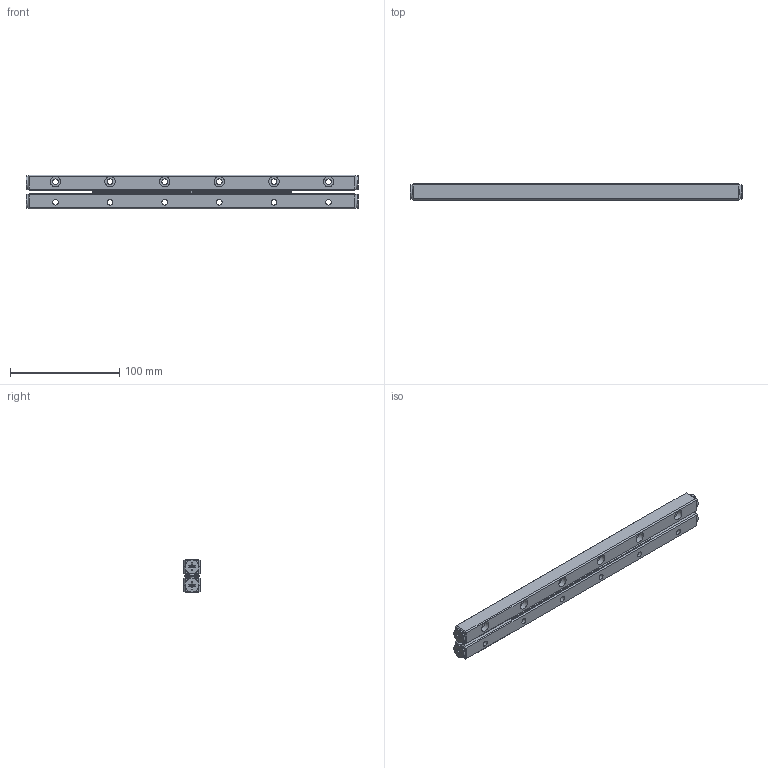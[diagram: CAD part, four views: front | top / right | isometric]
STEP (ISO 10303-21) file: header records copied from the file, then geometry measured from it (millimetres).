
FILE_DESCRIPTION (( 'STEP AP203' ), '1' );
FILE_NAME ('GRG06-0300-模糊化軌道組.STEP', '2022-11-04T08:14:03', ( '' ), ( '' ), 'SwSTEP 2.0', 'SolidWorks 2019', '' );
FILE_SCHEMA (( 'CONFIG_CONTROL_DESIGN' ));
Length unit declared in the file: millimetre
Products named in the file (1): GRG06-0300-模糊化軌道組
Bounding box: 304 x 15 x 31 mm (x, y, z)
Volume: 118246.4 mm3; surface area: 46966.2 mm2
Topology: 3 solids, 7 shells, 492 faces, 1216 edges, 784 vertices
Faces by surface type: plane 366, cylinder 70, torus 44, cone 12
Full cylindrical faces by diameter (mm): 4.25 x4, 5.1 x12, 9.5 x12, 13 x4
Entity records: 14513 total; most frequent: CARTESIAN_POINT 3329, ORIENTED_EDGE 2280, DIRECTION 2150, EDGE_CURVE 1140, VECTOR 788, LINE 788, VERTEX_POINT 760, AXIS2_PLACEMENT_3D 681
